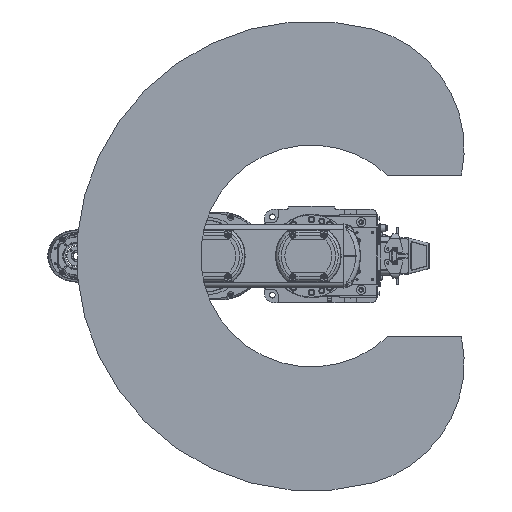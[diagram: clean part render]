
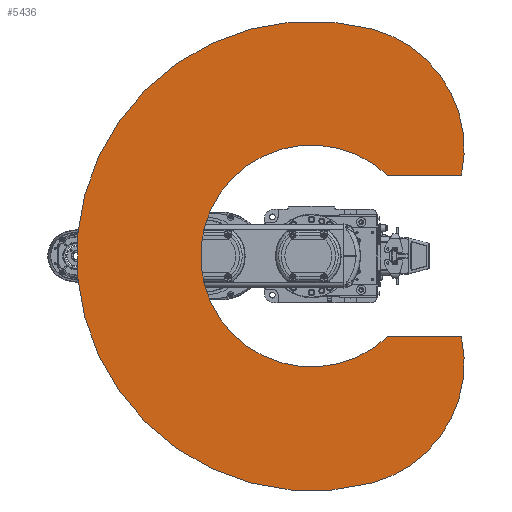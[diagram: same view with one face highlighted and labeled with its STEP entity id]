
A CAD part, front view. The second image highlights one B-rep face of the part: STEP entity #5436.
In plain terms, the highlighted planar face has unit normal (0, -1, 0).
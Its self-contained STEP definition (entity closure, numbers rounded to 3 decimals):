
#5436 = ADVANCED_FACE( '', ( #12755 ), #12756, .F. );
#12755 = FACE_OUTER_BOUND( '', #22508, .T. );
#12756 = PLANE( '', #22509 );
#22508 = EDGE_LOOP( '', ( #38464, #38465, #38466, #38467, #38468, #38469 ) );
#22509 = AXIS2_PLACEMENT_3D( '', #38470, #38471, #38472 );
#38464 = ORIENTED_EDGE( '', *, *, #51041, .T. );
#38465 = ORIENTED_EDGE( '', *, *, #51614, .F. );
#38466 = ORIENTED_EDGE( '', *, *, #55780, .F. );
#38467 = ORIENTED_EDGE( '', *, *, #51516, .F. );
#38468 = ORIENTED_EDGE( '', *, *, #55781, .T. );
#38469 = ORIENTED_EDGE( '', *, *, #54145, .F. );
#38470 = CARTESIAN_POINT( '', ( 102.614, 0., 27.495 ) );
#38471 = DIRECTION( '', ( 0., 1., 0. ) );
#38472 = DIRECTION( '', ( 0., 0., 1. ) );
#51041 = EDGE_CURVE( '', #60303, #60301, #60304, .T. );
#51516 = EDGE_CURVE( '', #61145, #61148, #61149, .T. );
#51614 = EDGE_CURVE( '', #61312, #60301, #61314, .T. );
#54145 = EDGE_CURVE( '', #60303, #65445, #65446, .F. );
#55780 = EDGE_CURVE( '', #61148, #61312, #67834, .T. );
#55781 = EDGE_CURVE( '', #61145, #65445, #67835, .T. );
#60301 = VERTEX_POINT( '', #74161 );
#60303 = VERTEX_POINT( '', #74164 );
#60304 = LINE( '', #74165, #74166 );
#61145 = VERTEX_POINT( '', #75902 );
#61148 = VERTEX_POINT( '', #75906 );
#61149 = CIRCLE( '', #75907, 237.533 );
#61312 = VERTEX_POINT( '', #76106 );
#61314 = CIRCLE( '', #76109, 237.533 );
#65445 = VERTEX_POINT( '', #83283 );
#65446 = CIRCLE( '', #83284, 212.47 );
#67834 = CIRCLE( '', #87184, 450. );
#67835 = LINE( '', #87185, #87186 );
#74161 = CARTESIAN_POINT( '', ( -155., 0., 287.152 ) );
#74164 = CARTESIAN_POINT( '', ( -155., 0., 145.322 ) );
#74165 = CARTESIAN_POINT( '', ( -155., 0., 0. ) );
#74166 = VECTOR( '', #94086, 1000. );
#75902 = CARTESIAN_POINT( '', ( 155., 0., 287.152 ) );
#75906 = CARTESIAN_POINT( '', ( 434.667, 0., 116.469 ) );
#75907 = AXIS2_PLACEMENT_3D( '', #94624, #94625, #94626 );
#76106 = CARTESIAN_POINT( '', ( -434.667, 0., 116.469 ) );
#76109 = AXIS2_PLACEMENT_3D( '', #94784, #94785, #94786 );
#83283 = CARTESIAN_POINT( '', ( 155., 0., 145.322 ) );
#83284 = AXIS2_PLACEMENT_3D( '', #97949, #97950, #97951 );
#87184 = AXIS2_PLACEMENT_3D( '', #99930, #99931, #99932 );
#87185 = CARTESIAN_POINT( '', ( 155., 0., 305. ) );
#87186 = VECTOR( '', #99933, 1000. );
#94086 = DIRECTION( '', ( 0., 0., 1. ) );
#94624 = CARTESIAN_POINT( '', ( 205.228, 0., 54.991 ) );
#94625 = DIRECTION( '', ( 0., 1., 0. ) );
#94626 = DIRECTION( '', ( 1., 0., 0. ) );
#94784 = CARTESIAN_POINT( '', ( -205.228, 0., 54.991 ) );
#94785 = DIRECTION( '', ( 0., 1., 0. ) );
#94786 = DIRECTION( '', ( 1., 0., 0. ) );
#97949 = CARTESIAN_POINT( '', ( 0., 0., 0. ) );
#97950 = DIRECTION( '', ( 0., 1., 0. ) );
#97951 = DIRECTION( '', ( 0., 0., 1. ) );
#99930 = CARTESIAN_POINT( '', ( 0., 0., 0. ) );
#99931 = DIRECTION( '', ( 0., 1., 0. ) );
#99932 = DIRECTION( '', ( 1., 0., 0. ) );
#99933 = DIRECTION( '', ( 0., 0., -1. ) );
